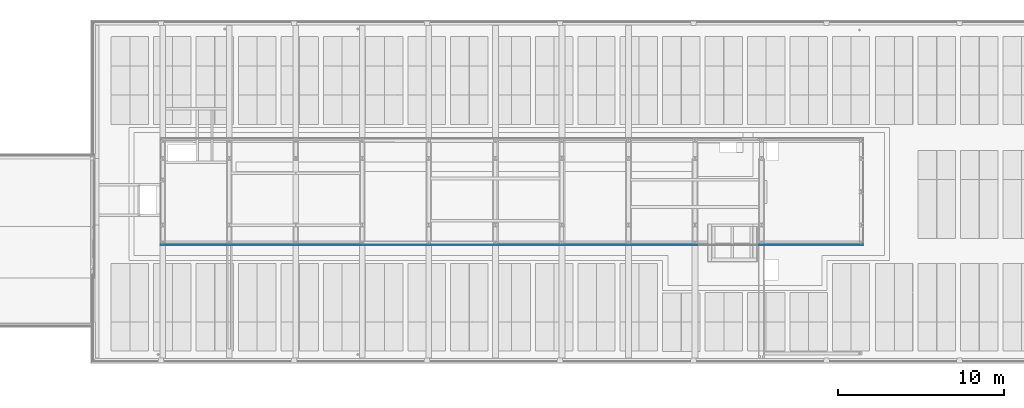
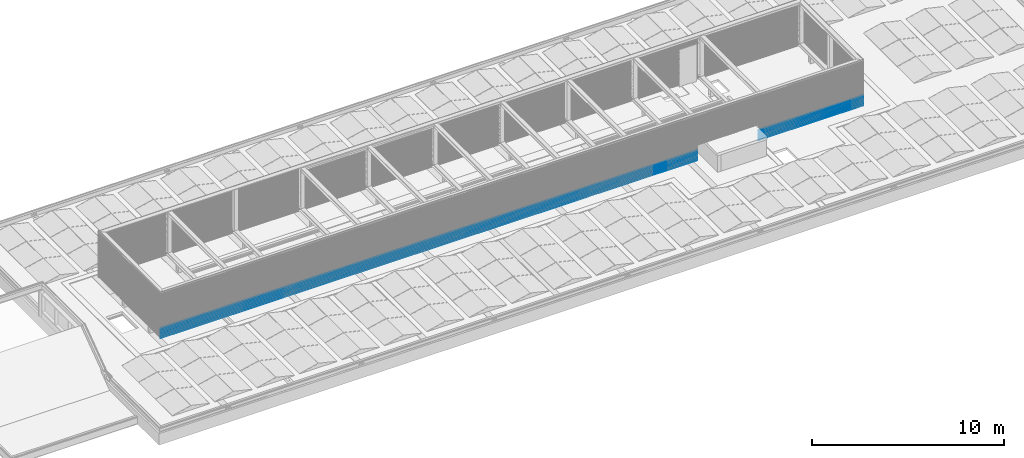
# One storey, part 30 of 63: 9 building element parts, 1 opening, 1 element without a shape of its own.
"""IFC2X3 building model written with IfcOpenShell, lengths in millimetres."""

from ifc_helpers import new_model, entity, si_unit, converted_unit, derived_unit, money_unit, direction, frame, origin_with_axes, place, context, subcontext, project, spatial, faceted_brep, material, type_object, element, aggregate, save


model = new_model("IFC2X3")

# Units and contexts
model_context = context("Model", 3, precision=0.01, world=origin_with_axes(), true_north=direction((0.0, 1.0)))
body_context = subcontext(model_context, "Body", "Model", "MODEL_VIEW")
ifc_project = project(units=[si_unit("LENGTHUNIT", "METRE", prefix="MILLI"), si_unit("AREAUNIT", "SQUARE_METRE"), si_unit("VOLUMEUNIT", "CUBIC_METRE"), converted_unit("PLANEANGLEUNIT", "DEGREE", entity("IfcPlaneAngleMeasure", 0.0174532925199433), si_unit("PLANEANGLEUNIT", "RADIAN"), dimensions=[0, 0, 0, 0, 0, 0, 0]), money_unit("EUR"), converted_unit("TIMEUNIT", "Year", entity("IfcTimeMeasure", 31557600.0), si_unit("TIMEUNIT", "SECOND"), dimensions=[0, 0, 1, 0, 0, 0, 0]), si_unit("MASSUNIT", "GRAM", prefix="KILO"), si_unit("THERMODYNAMICTEMPERATUREUNIT", "DEGREE_CELSIUS"), si_unit("LUMINOUSINTENSITYUNIT", "LUMEN"), si_unit("ENERGYUNIT", "JOULE", prefix="MEGA"), derived_unit("THERMALCONDUCTANCEUNIT", [(si_unit("POWERUNIT", "WATT"), 1), (si_unit("LENGTHUNIT", "METRE"), -1), (si_unit("THERMODYNAMICTEMPERATUREUNIT", "KELVIN"), -1)]), derived_unit("SPECIFICHEATCAPACITYUNIT", [(si_unit("ENERGYUNIT", "JOULE"), 1), (si_unit("MASSUNIT", "GRAM", prefix="KILO"), -1), (si_unit("THERMODYNAMICTEMPERATUREUNIT", "KELVIN"), -1)]), derived_unit("MASSDENSITYUNIT", [(si_unit("MASSUNIT", "GRAM", prefix="KILO"), 1), (si_unit("VOLUMEUNIT", "CUBIC_METRE"), -1)])], contexts=[model_context])

# Site, building, storey
site_placement = place(None, origin_with_axes())
site = spatial("IfcSite", under=ifc_project, at=site_placement, Name="<site naam>", CompositionType="ELEMENT")
building_placement = place(site_placement, origin_with_axes())
building = spatial("IfcBuilding", under=site, at=building_placement, Name="<Naam gebouw>", CompositionType="ELEMENT")
storey_placement = place(building_placement, frame((0.0, 0.0, 12770.0), z_axis=(0.0, 0.0, 1.0), x_axis=(1.0, 0.0, 0.0)))
storey = spatial("IfcBuildingStorey", under=building, at=storey_placement, Name="04 4e verdieping", CompositionType="ELEMENT", Elevation=12770.0)

# Wall, opening, building element parts
wall_type = type_object("IfcWallType", Name="Gevelbeplating golf 18 x 2900", PredefinedType="NOTDEFINED")
wall_placement = place(storey_placement, frame((15871.99992141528, 6781.999921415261, 299.9552842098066), z_axis=(0.0, 0.0, 1.0), x_axis=(1.0, 0.0, 0.0)))
wall = element("IfcWall", 1, at=wall_placement, inside=storey, type_object=wall_type, Name="47_Binnenwand_Gevelbeplating")
opening_placement = place(wall_placement, frame((-15871.99992141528, -6781.999921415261, -13069.95528420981), z_axis=(0.0, 0.0, 1.0), x_axis=(1.0, 0.0, 0.0)))
element("IfcOpeningElement", 2, at=opening_placement, cuts=wall, Name="47_Opening_", context=body_context, shape_type="Brep", body=[
    faceted_brep([(48150.00001112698, 6763.99976424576, 12770.0), (48150.00001112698, 6763.99976424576, 14059.65145375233), (48150.00001112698, 6818.000000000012, 14059.65145375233), (48150.00001112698, 6818.000000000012, 12770.0), (51850.00001112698, 6763.99976424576, 12770.0), (51850.00001112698, 6763.99976424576, 14059.65145375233), (51850.00001112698, 6818.000000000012, 14059.65145375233), (51850.00001112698, 6818.000000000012, 12770.0)], [[[0, 1, 2, 3]], [[0, 4, 5, 1]], [[1, 5, 6, 2]], [[3, 2, 6, 7]], [[4, 0, 3, 7]], [[5, 4, 7, 6]]]),
])
ifc_material = material(Name="gevelafwerking type 3 - Aluminium RAL1036")
building_element_part_1_placement = place(wall_placement, origin_with_axes())
building_element_part_1 = element("IfcBuildingElementPart", 3, at=building_element_part_1_placement, material=ifc_material, Name="gevelafwerking type 3 - Aluminium RAL1036", context=body_context, shape_type="Brep", body=[
    faceted_brep([(16.99997058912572, 16.9999976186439, 0.0), (16.99997058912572, 17.99999999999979, 0.0), (42239.00018658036, 18.00000000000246, 0.0), (42239.00018658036, 16.99999761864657, 0.0), (14.77517145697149, 15.70000052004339, 10.36568676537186), (14.77517145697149, 14.7751970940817, 10.36568676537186), (14.544207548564, 15.62926287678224, 10.68448868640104), (42241.45594962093, 15.62926287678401, 10.68448868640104), (42241.22498571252, 15.70000052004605, 10.36568676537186), (42241.22498571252, 14.77519709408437, 10.36568676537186), (8.555249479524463, 8.55525261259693, 18.95111073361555), (8.555249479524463, 9.3981250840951, 18.95111073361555), (8.209543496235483, 9.041583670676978, 19.42412115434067), (42247.79061367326, 9.041583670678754, 19.42412115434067), (42247.44490768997, 9.398125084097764, 18.95111073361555), (42247.44490768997, 8.555252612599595, 18.95111073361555), (2.257327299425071, 2.257358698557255, 27.56821013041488), (2.257327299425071, 3.340126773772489, 27.56821013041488), (2.18819837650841, 3.116478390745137, 27.8876744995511), (42253.81195879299, 3.116478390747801, 27.8876744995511), (42253.74282987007, 3.340126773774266, 27.56821013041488), (42253.74282987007, 2.257358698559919, 27.56821013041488), (-1.152946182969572e-05, 0.0, 38.00001341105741), (-1.152946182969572e-05, 1.000000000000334, 38.00001341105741), (42256.00016869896, 1.000000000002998, 38.00001341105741), (42256.00016869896, 0.0, 38.00001341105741)], [[[0, 1, 2, 3]], [[4, 1, 0, 5]], [[4, 6, 7, 8, 2, 1]], [[2, 8, 9, 3]], [[5, 0, 3, 9]], [[6, 4, 5, 10, 11]], [[11, 12, 13, 14, 7, 6]], [[7, 14, 15, 9, 8]], [[10, 5, 9, 15]], [[12, 11, 10, 16, 17]], [[17, 18, 19, 20, 13, 12]], [[13, 20, 21, 15, 14]], [[16, 10, 15, 21]], [[18, 17, 16, 22, 23]], [[18, 23, 24, 19]], [[19, 24, 25, 21, 20]], [[22, 16, 21, 25]], [[23, 22, 25, 24]]]),
])
building_element_part_2_placement = place(wall_placement, origin_with_axes())
building_element_part_2 = element("IfcBuildingElementPart", 4, at=building_element_part_2_placement, material=ifc_material, Name="gevelafwerking type 3 - Aluminium RAL1036", context=body_context, shape_type="Brep", body=[
    faceted_brep([(16.99997058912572, 16.99999523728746, 75.99998360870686), (16.99997058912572, 17.99999761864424, 75.99998360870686), (42239.00018658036, 17.9999976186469, 75.99998360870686), (42239.00018658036, 16.99999523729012, 75.99998360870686), (14.77517145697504, 15.70000177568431, 86.36567037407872), (14.77517145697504, 14.77519471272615, 86.36567037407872), (14.54419567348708, 15.62926049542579, 86.68448868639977), (42241.45596149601, 15.62926049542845, 86.68448868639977), (42241.22498571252, 15.70000177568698, 86.36567037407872), (42241.22498571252, 14.77519471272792, 86.36567037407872), (8.555249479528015, 8.555250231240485, 94.9510943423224), (8.555249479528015, 9.398135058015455, 94.9510943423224), (8.209531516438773, 9.041581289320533, 95.4241211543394), (42247.79062565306, 9.041581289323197, 95.4241211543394), (42247.44490768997, 9.39813505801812, 94.9510943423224), (42247.44490768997, 8.555250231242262, 94.9510943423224), (2.257327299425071, 2.257356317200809, 103.5681937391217), (2.257327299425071, 3.340135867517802, 103.5681937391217), (2.18819482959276, 3.116476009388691, 103.8876744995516), (42253.81196233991, 3.116476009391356, 103.8876744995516), (42253.74282987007, 3.340135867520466, 103.5681937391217), (42253.74282987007, 2.257356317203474, 103.5681937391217), (-1.152946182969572e-05, -2.381356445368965e-06, 113.9999970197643), (-1.152946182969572e-05, 0.9999976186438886, 113.9999970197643), (42256.00016869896, 0.9999976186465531, 113.9999970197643), (42256.00016869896, -2.381353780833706e-06, 113.9999970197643)], [[[0, 1, 2, 3]], [[4, 1, 0, 5]], [[4, 6, 7, 8, 2, 1]], [[2, 8, 9, 3]], [[5, 0, 3, 9]], [[6, 4, 5, 10, 11]], [[11, 12, 13, 14, 7, 6]], [[7, 14, 15, 9, 8]], [[10, 5, 9, 15]], [[12, 11, 10, 16, 17]], [[17, 18, 19, 20, 13, 12]], [[13, 20, 21, 15, 14]], [[16, 10, 15, 21]], [[18, 17, 16, 22, 23]], [[18, 23, 24, 19]], [[19, 24, 25, 21, 20]], [[22, 16, 21, 25]], [[23, 22, 25, 24]]]),
])
building_element_part_3_placement = place(wall_placement, origin_with_axes())
building_element_part_3 = element("IfcBuildingElementPart", 5, at=building_element_part_3_placement, material=ifc_material, Name="gevelafwerking type 3 - Aluminium RAL1036", context=body_context, shape_type="Brep", body=[
    faceted_brep([(16.99997058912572, 16.9999928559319, 152.0000104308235), (16.99997058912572, 17.99999523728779, 152.0000104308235), (42239.00018658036, 17.99999523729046, 152.0000104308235), (42239.00018658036, 16.99999285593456, 152.0000104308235), (14.77517145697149, 15.69999344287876, 162.3656971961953), (14.77517145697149, 14.7751923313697, 162.3656971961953), (14.54421510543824, 15.62925811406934, 162.6844886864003), (42241.45594206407, 15.62925811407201, 162.6844886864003), (42241.22498571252, 15.69999344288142, 162.3656971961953), (42241.22498571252, 14.77519233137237, 162.3656971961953), (8.555249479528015, 8.555247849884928, 170.9511211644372), (8.555249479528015, 9.398112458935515, 170.9511211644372), (8.209551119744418, 9.041578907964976, 171.4241211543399), (42247.79060604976, 9.04157890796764, 171.4241211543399), (42247.44490768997, 9.39811245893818, 170.9511211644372), (42247.44490768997, 8.555247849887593, 170.9511211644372), (2.257327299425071, 2.257353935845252, 179.5682205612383), (2.257327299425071, 3.340114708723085, 179.5682205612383), (2.188195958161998, 3.116473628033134, 179.8876744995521), (42253.81196121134, 3.116473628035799, 179.8876744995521), (42253.74282987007, 3.34011470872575, 179.5682205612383), (42253.74282987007, 2.257353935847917, 179.5682205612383), (-6.853987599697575e-06, -4.76271200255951e-06, 189.9999806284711), (-6.853987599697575e-06, 0.9999952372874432, 189.9999806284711), (42256.00016402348, 0.9999952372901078, 189.9999806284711), (42256.00016402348, -4.762709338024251e-06, 189.9999806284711)], [[[0, 1, 2, 3]], [[4, 1, 0, 5]], [[4, 6, 7, 8, 2, 1]], [[2, 8, 9, 3]], [[5, 0, 3, 9]], [[6, 4, 5, 10, 11]], [[11, 12, 13, 14, 7, 6]], [[7, 14, 15, 9, 8]], [[10, 5, 9, 15]], [[12, 11, 10, 16, 17]], [[17, 18, 19, 20, 13, 12]], [[13, 20, 21, 15, 14]], [[16, 10, 15, 21]], [[18, 17, 16, 22, 23]], [[18, 23, 24, 19]], [[19, 24, 25, 21, 20]], [[22, 16, 21, 25]], [[23, 22, 25, 24]]]),
])
building_element_part_4_placement = place(wall_placement, origin_with_axes())
building_element_part_4 = element("IfcBuildingElementPart", 6, at=building_element_part_4_placement, material=ifc_material, Name="gevelafwerking type 3 - Aluminium RAL1036", context=body_context, shape_type="Brep", body=[
    faceted_brep([(16.99997058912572, 16.9999880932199, 380.000004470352), (16.99997058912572, 17.99999047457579, 380.000004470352), (42239.00018658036, 17.99999047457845, 380.000004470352), (42239.00018658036, 16.99998809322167, 380.000004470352), (14.77517145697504, 15.69999000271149, 390.3656912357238), (14.77517145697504, 14.7751875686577, 390.3656912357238), (14.54420918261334, 15.62925335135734, 390.6844886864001), (42241.45594798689, 15.62925335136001, 390.6844886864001), (42241.22498571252, 15.69999000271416, 390.3656912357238), (42241.22498571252, 14.77518756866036, 390.3656912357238), (8.555206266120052, 8.555243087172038, 398.9511152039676), (8.555206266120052, 9.398112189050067, 398.9511152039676), (8.209505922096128, 9.041574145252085, 399.4241211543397), (42247.79065124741, 9.04157414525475, 399.4241211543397), (42247.44495090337, 9.398112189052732, 398.9511152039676), (42247.44495090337, 8.555243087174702, 398.9511152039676), (2.257327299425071, 2.257349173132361, 407.5682146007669), (2.257327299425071, 3.340114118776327, 407.5682146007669), (2.188199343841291, 3.116468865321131, 407.8876744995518), (42253.81195782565, 3.116468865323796, 407.8876744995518), (42253.74282987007, 3.340114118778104, 407.5682146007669), (42253.74282987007, 2.257349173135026, 407.5682146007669), (-1.152946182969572e-05, -9.525424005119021e-06, 418.0000178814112), (-1.152946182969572e-05, 0.9999904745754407, 418.0000178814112), (42256.00016869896, 0.9999904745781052, 418.0000178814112), (42256.00016869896, -9.525421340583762e-06, 418.0000178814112)], [[[0, 1, 2, 3]], [[4, 1, 0, 5]], [[4, 6, 7, 8, 2, 1]], [[2, 8, 9, 3]], [[5, 0, 3, 9]], [[6, 4, 5, 10, 11]], [[11, 12, 13, 14, 7, 6]], [[7, 14, 15, 9, 8]], [[10, 5, 9, 15]], [[12, 11, 10, 16, 17]], [[17, 18, 19, 20, 13, 12]], [[13, 20, 21, 15, 14]], [[16, 10, 15, 21]], [[18, 17, 16, 22, 23]], [[18, 23, 24, 19]], [[19, 24, 25, 21, 20]], [[22, 16, 21, 25]], [[23, 22, 25, 24]]]),
])
building_element_part_5_placement = place(wall_placement, origin_with_axes())
building_element_part_5 = element("IfcBuildingElementPart", 7, at=building_element_part_5_placement, material=ifc_material, Name="gevelafwerking type 3 - Aluminium RAL1036", context=body_context, shape_type="Brep", body=[
    faceted_brep([(16.99997058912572, 16.99999047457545, 227.9999940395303), (16.99997058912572, 17.99999285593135, 227.9999940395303), (42239.00018658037, 17.99999285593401, 227.9999940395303), (42239.00018658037, 16.99999047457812, 227.9999940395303), (14.77517145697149, 15.69999469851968, 238.3656808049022), (14.77517145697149, 14.77518995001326, 238.3656808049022), (14.54420162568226, 15.62925573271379, 238.6844886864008), (42241.45595554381, 15.62925573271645, 238.6844886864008), (42241.22498571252, 15.69999469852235, 238.3656808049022), (42241.22498571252, 14.77518995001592, 238.3656808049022), (8.5552062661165, 8.555245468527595, 246.9511047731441), (8.5552062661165, 9.39812243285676, 246.9511047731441), (8.20949829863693, 9.04157652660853, 247.4241211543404), (42247.79065887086, 9.041576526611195, 247.4241211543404), (42247.44495090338, 9.398122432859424, 246.9511047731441), (42247.44495090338, 8.55524546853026, 246.9511047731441), (2.257327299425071, 2.257351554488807, 255.5682041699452), (2.257327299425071, 3.34012380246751, 255.5682041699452), (2.188197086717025, 3.116471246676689, 255.8876744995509), (42253.81196008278, 3.116471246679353, 255.8876744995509), (42253.74282987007, 3.340123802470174, 255.5682041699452), (42253.74282987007, 2.257351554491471, 255.5682041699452), (-1.152946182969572e-05, -7.144068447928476e-06, 266.0000074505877), (-1.152946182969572e-05, 0.999992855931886, 266.0000074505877), (42256.00016869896, 0.9999928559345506, 266.0000074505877), (42256.00016869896, -7.144065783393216e-06, 266.0000074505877)], [[[0, 1, 2, 3]], [[4, 1, 0, 5]], [[4, 6, 7, 8, 2, 1]], [[2, 8, 9, 3]], [[5, 0, 3, 9]], [[6, 4, 5, 10, 11]], [[11, 12, 13, 14, 7, 6]], [[7, 14, 15, 9, 8]], [[10, 5, 9, 15]], [[12, 11, 10, 16, 17]], [[17, 18, 19, 20, 13, 12]], [[13, 20, 21, 15, 14]], [[16, 10, 15, 21]], [[18, 17, 16, 22, 23]], [[18, 23, 24, 19]], [[19, 24, 25, 21, 20]], [[22, 16, 21, 25]], [[23, 22, 25, 24]]]),
])
building_element_part_6_placement = place(wall_placement, origin_with_axes())
building_element_part_6 = element("IfcBuildingElementPart", 8, at=building_element_part_6_placement, material=ifc_material, Name="gevelafwerking type 3 - Aluminium RAL1036", context=body_context, shape_type="Brep", body=[
    faceted_brep([(16.99997058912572, 16.9999880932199, 304.0000208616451), (16.99997058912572, 17.99999047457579, 304.0000208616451), (42239.00018658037, 17.99999047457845, 304.0000208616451), (42239.00018658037, 16.99998809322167, 304.0000208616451), (14.77517609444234, 15.69999595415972, 314.365664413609), (14.77517609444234, 14.7751875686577, 314.365664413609), (14.54418975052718, 15.62925335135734, 314.6844886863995), (42241.45596741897, 15.62925335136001, 314.6844886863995), (42241.22498107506, 15.69999595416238, 314.365664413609), (42241.22498107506, 14.77518756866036, 314.365664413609), (8.5552062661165, 8.555243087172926, 322.9510883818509), (8.5552062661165, 9.398132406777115, 322.9510883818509), (8.209488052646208, 9.041574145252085, 323.4241211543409), (42247.79066911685, 9.04157414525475, 323.4241211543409), (42247.44495090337, 9.39813240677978, 322.9510883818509), (42247.44495090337, 8.55524308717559, 322.9510883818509), (2.257327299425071, 2.25734917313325, 331.56823099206), (2.257327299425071, 3.340102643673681, 331.56823099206), (2.188198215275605, 3.116468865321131, 331.8876744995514), (42253.8119589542, 3.116468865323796, 331.8876744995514), (42253.74282987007, 3.340102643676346, 331.56823099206), (42253.74282987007, 2.257349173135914, 331.56823099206), (-6.853984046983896e-06, -9.525424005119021e-06, 341.9999910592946), (-6.853984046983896e-06, 0.9999904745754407, 341.9999910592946), (42256.00016402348, 0.9999904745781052, 341.9999910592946), (42256.00016402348, -9.525422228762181e-06, 341.9999910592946)], [[[0, 1, 2, 3]], [[4, 1, 0, 5]], [[4, 6, 7, 8, 2, 1]], [[2, 8, 9, 3]], [[5, 0, 3, 9]], [[6, 4, 5, 10, 11]], [[11, 12, 13, 14, 7, 6]], [[7, 14, 15, 9, 8]], [[10, 5, 9, 15]], [[12, 11, 10, 16, 17]], [[17, 18, 19, 20, 13, 12]], [[13, 20, 21, 15, 14]], [[16, 10, 15, 21]], [[18, 17, 16, 22, 23]], [[18, 23, 24, 19]], [[19, 24, 25, 21, 20]], [[22, 16, 21, 25]], [[23, 22, 25, 24]]]),
])
building_element_part_7_placement = place(wall_placement, origin_with_axes())
building_element_part_7 = element("IfcBuildingElementPart", 9, at=building_element_part_7_placement, material=ifc_material, Name="gevelafwerking type 3 - Aluminium RAL1036", context=body_context, shape_type="Brep", body=[
    faceted_brep([(35432.99979109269, 3.116461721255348, 635.8876744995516), (35432.99978823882, 5.000511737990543, 633.196455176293), (35593.00010259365, 5.000511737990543, 633.196455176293), (35593.00009973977, 3.116461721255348, 635.8876744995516), (42253.81194669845, 3.116461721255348, 635.8876744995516), (42253.74282519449, 3.340111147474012, 635.5682086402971), (42247.79065092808, 9.041567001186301, 627.4241211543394), (8.209506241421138, 9.041567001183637, 627.4241211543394), (2.257331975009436, 3.340111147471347, 635.5682086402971), (2.188210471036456, 3.116461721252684, 635.8876744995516), (33164.99985396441, 3.11646172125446, 635.8876744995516), (33164.99985111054, 5.000511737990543, 633.196455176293), (33325.00016546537, 5.000511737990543, 633.196455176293), (33325.0001626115, 3.11646172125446, 635.8876744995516), (34298.99987259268, 3.11646172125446, 635.8876744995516), (34298.99986682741, 6.922501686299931, 630.4510416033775), (34459.00008687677, 6.922501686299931, 630.4510416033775), (34459.0000811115, 3.11646172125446, 635.8876744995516), (35432.99980172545, 0.9999833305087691, 646.0000119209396), (35432.99980174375, -1.666949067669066e-05, 646.0000119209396), (35432.99979077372, 2.257342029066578, 635.5682086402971), (35432.99978823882, 4.003480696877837, 633.179051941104), (35593.00010259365, 4.003480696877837, 633.179051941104), (35593.00010005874, 2.257342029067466, 635.5682086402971), (35593.00008908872, -1.666948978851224e-05, 646.0000119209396), (35593.00008910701, 0.9999833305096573, 646.0000119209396), (42256.0002072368, 0.9999833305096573, 646.0000119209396), (42256.0002072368, -1.666948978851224e-05, 646.0000119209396), (42253.74282519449, 2.257342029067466, 635.5682086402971), (42247.44495090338, 9.398109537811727, 626.9511092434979), (42247.44495090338, 8.55523594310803, 626.9511092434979), (14.54420486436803, 15.62924620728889, 618.6844886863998), (8.555206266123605, 9.398109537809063, 626.9511092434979), (42241.45595230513, 15.62924620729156, 618.6844886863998), (8.555206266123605, 8.555235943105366, 626.9511092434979), (2.257331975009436, 2.257342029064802, 635.5682086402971), (-5.006730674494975e-05, 0.9999833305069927, 646.0000119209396), (-5.006730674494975e-05, -1.66694924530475e-05, 646.0000119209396), (33164.99986459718, 0.9999833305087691, 646.0000119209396), (33164.99986461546, -1.666949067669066e-05, 646.0000119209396), (33164.99985364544, 2.257342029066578, 635.5682086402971), (33164.99985111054, 4.003480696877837, 633.179051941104), (33325.00016546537, 4.003480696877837, 633.179051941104), (33325.00016293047, 2.257342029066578, 635.5682086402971), (33325.00015196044, -1.666949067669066e-05, 646.0000119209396), (33325.00015197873, 0.9999833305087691, 646.0000119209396), (34374.99997685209, 0.9999833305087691, 646.0000119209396), (34374.99997685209, 1.135427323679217, 645.3528619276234), (34298.99988254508, 1.135427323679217, 645.3528619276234), (34298.99988254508, 0.1437672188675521, 645.3355524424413), (34298.9998722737, 2.257342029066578, 635.5682086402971), (34298.99986682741, 6.008928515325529, 630.4350951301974), (34459.00008687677, 6.008928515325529, 630.4350951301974), (34459.00008143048, 2.257342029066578, 635.5682086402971), (34459.00007115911, 0.1437672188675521, 645.3355524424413), (34459.00007115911, 1.135427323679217, 645.3528619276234), (34382.99997685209, 1.135427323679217, 645.3528619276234), (34382.99997685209, 0.9999833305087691, 646.0000119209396), (34382.99997685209, -1.666949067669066e-05, 646.0000119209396), (34382.99997685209, 0.1437672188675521, 645.3355524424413), (42241.22498571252, 15.69998418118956, 618.3656852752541), (42241.22498571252, 14.77518042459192, 618.3656852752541), (14.77517145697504, 15.6999841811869, 618.3656852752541), (14.77517145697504, 14.77518042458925, 618.3656852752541), (16.99997058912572, 17.99998333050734, 607.9999985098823), (42239.00018658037, 17.99998333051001, 607.9999985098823), (34374.99997685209, 0.1437672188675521, 645.3355524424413), (34374.99997685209, -1.666949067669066e-05, 646.0000119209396), (42239.00018658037, 16.99998094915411, 607.9999985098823), (16.99997058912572, 16.99998094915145, 607.9999985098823)], [[[0, 1, 2, 3, 4, 5, 6, 7, 8, 9, 10, 11, 12, 13, 14, 15, 16, 17]], [[1, 0, 18, 19, 20, 21]], [[2, 1, 21, 22]], [[3, 2, 22, 23, 24, 25]], [[3, 25, 26, 4]], [[5, 4, 26, 27, 28]], [[29, 6, 5, 28, 30]], [[31, 32, 7, 6, 29, 33]], [[8, 7, 32, 34, 35]], [[36, 9, 8, 35, 37]], [[38, 10, 9, 36]], [[11, 10, 38, 39, 40, 41]], [[12, 11, 41, 42]], [[13, 12, 42, 43, 44, 45]], [[13, 45, 46, 47, 48, 14]], [[15, 14, 48, 49, 50, 51]], [[16, 15, 51, 52]], [[17, 16, 52, 53, 54, 55]], [[18, 0, 17, 55, 56, 57]], [[19, 18, 57, 58]], [[20, 19, 58, 59, 54, 53]], [[21, 20, 53, 52, 51, 50, 43, 42, 41, 40, 35, 34, 30, 28, 23, 22]], [[24, 23, 28, 27]], [[25, 24, 27, 26]], [[60, 33, 29, 30, 61]], [[32, 31, 62, 63, 34]], [[64, 62, 31, 33, 60, 65]], [[40, 39, 37, 35]], [[39, 38, 36, 37]], [[44, 43, 50, 49, 66, 67]], [[45, 44, 67, 46]], [[47, 46, 67, 66]], [[48, 47, 66, 49]], [[56, 55, 54, 59]], [[57, 56, 59, 58]], [[30, 34, 63, 61]], [[68, 65, 60, 61]], [[63, 62, 64, 69]], [[68, 69, 64, 65]], [[61, 63, 69, 68]]]),
])
building_element_part_8_placement = place(wall_placement, origin_with_axes())
building_element_part_8 = element("IfcBuildingElementPart", 10, at=building_element_part_8_placement, material=ifc_material, Name="gevelafwerking type 3 - Aluminium RAL1036", context=body_context, shape_type="Brep", body=[
    faceted_brep([(16.99997058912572, 16.99998571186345, 455.9999880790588), (16.99997058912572, 17.99998809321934, 455.9999880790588), (42239.00018658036, 17.99998809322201, 455.9999880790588), (42239.00018658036, 16.99998571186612, 455.9999880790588), (14.77517145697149, 15.69999125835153, 466.3656748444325), (14.77517145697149, 14.77518518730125, 466.3656748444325), (14.54419730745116, 15.62925097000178, 466.6844886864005), (42241.45595986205, 15.62925097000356, 466.6844886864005), (42241.22498571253, 15.69999125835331, 466.3656748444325), (42241.22498571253, 14.77518518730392, 466.3656748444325), (8.555206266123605, 8.55524070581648, 474.9510988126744), (8.555206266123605, 9.398122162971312, 474.9510988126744), (8.20949394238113, 9.041571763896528, 475.4241211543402), (42247.79066322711, 9.041571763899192, 475.4241211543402), (42247.44495090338, 9.398122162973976, 474.9510988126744), (42247.44495090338, 8.555240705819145, 474.9510988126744), (2.257327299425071, 2.257346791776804, 483.5681982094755), (2.257327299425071, 3.340123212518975, 483.5681982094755), (2.188195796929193, 3.116466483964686, 483.8876744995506), (42253.81196137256, 3.116466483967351, 483.8876744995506), (42253.74282987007, 3.34012321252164, 483.5681982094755), (42253.74282987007, 2.257346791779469, 483.5681982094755), (-1.15294653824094e-05, -1.190678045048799e-05, 494.0000014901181), (-1.15294653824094e-05, 0.9999880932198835, 494.0000014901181), (42256.00016869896, 0.999988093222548, 494.0000014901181), (42256.00016869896, -1.190677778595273e-05, 494.0000014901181)], [[[0, 1, 2, 3]], [[4, 1, 0, 5]], [[4, 6, 7, 8, 2, 1]], [[2, 8, 9, 3]], [[5, 0, 3, 9]], [[6, 4, 5, 10, 11]], [[11, 12, 13, 14, 7, 6]], [[7, 14, 15, 9, 8]], [[10, 5, 9, 15]], [[12, 11, 10, 16, 17]], [[17, 18, 19, 20, 13, 12]], [[13, 20, 21, 15, 14]], [[16, 10, 15, 21]], [[18, 17, 16, 22, 23]], [[18, 23, 24, 19]], [[19, 24, 25, 21, 20]], [[22, 16, 21, 25]], [[23, 22, 25, 24]]]),
])
building_element_part_9_placement = place(wall_placement, origin_with_axes())
building_element_part_9 = element("IfcBuildingElementPart", 11, at=building_element_part_9_placement, material=ifc_material, Name="gevelafwerking type 3 - Aluminium RAL1036", context=body_context, shape_type="Brep", body=[
    faceted_brep([(16.99997058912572, 16.99998333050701, 532.0000149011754), (16.99997058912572, 17.99998571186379, 532.0000149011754), (42239.00018658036, 17.99998571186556, 532.0000149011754), (42239.00018658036, 16.99998333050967, 532.0000149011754), (14.77517145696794, 15.69998292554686, 542.3657016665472), (14.77517145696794, 14.7751828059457, 542.3657016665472), (14.54421673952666, 15.62924858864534, 542.6844886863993), (42241.45594042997, 15.629248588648, 542.6844886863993), (42241.22498571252, 15.69998292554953, 542.3657016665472), (42241.22498571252, 14.77518280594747, 542.3657016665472), (8.5552062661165, 8.555238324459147, 550.9511256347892), (8.5552062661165, 9.398099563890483, 550.9511256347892), (8.209513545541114, 9.041569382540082, 551.4241211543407), (42247.79064362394, 9.041569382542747, 551.4241211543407), (42247.44495090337, 9.398099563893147, 550.9511256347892), (42247.44495090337, 8.555238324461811, 550.9511256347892), (2.257327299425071, 2.257344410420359, 559.5682250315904), (2.257327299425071, 3.340102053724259, 559.5682250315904), (2.188199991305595, 3.116464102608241, 559.8876744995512), (42253.81195717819, 3.116464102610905, 559.8876744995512), (42253.74282987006, 3.340102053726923, 559.5682250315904), (42253.74282987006, 2.257344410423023, 559.5682250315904), (-5.474286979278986e-05, -1.428813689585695e-05, 569.9999850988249), (-5.474286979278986e-05, 0.9999857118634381, 569.9999850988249), (42256.00021191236, 0.9999857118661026, 569.9999850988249), (42256.00021191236, -1.428813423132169e-05, 569.9999850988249)], [[[0, 1, 2, 3]], [[4, 1, 0, 5]], [[4, 6, 7, 8, 2, 1]], [[2, 8, 9, 3]], [[5, 0, 3, 9]], [[6, 4, 5, 10, 11]], [[11, 12, 13, 14, 7, 6]], [[7, 14, 15, 9, 8]], [[10, 5, 9, 15]], [[12, 11, 10, 16, 17]], [[17, 18, 19, 20, 13, 12]], [[13, 20, 21, 15, 14]], [[16, 10, 15, 21]], [[18, 17, 16, 22, 23]], [[18, 23, 24, 19]], [[19, 24, 25, 21, 20]], [[22, 16, 21, 25]], [[23, 22, 25, 24]]]),
])
aggregate(wall, [building_element_part_1, building_element_part_2, building_element_part_3, building_element_part_4, building_element_part_5, building_element_part_6, building_element_part_7, building_element_part_8, building_element_part_9])

save(model, "model.ifc")
